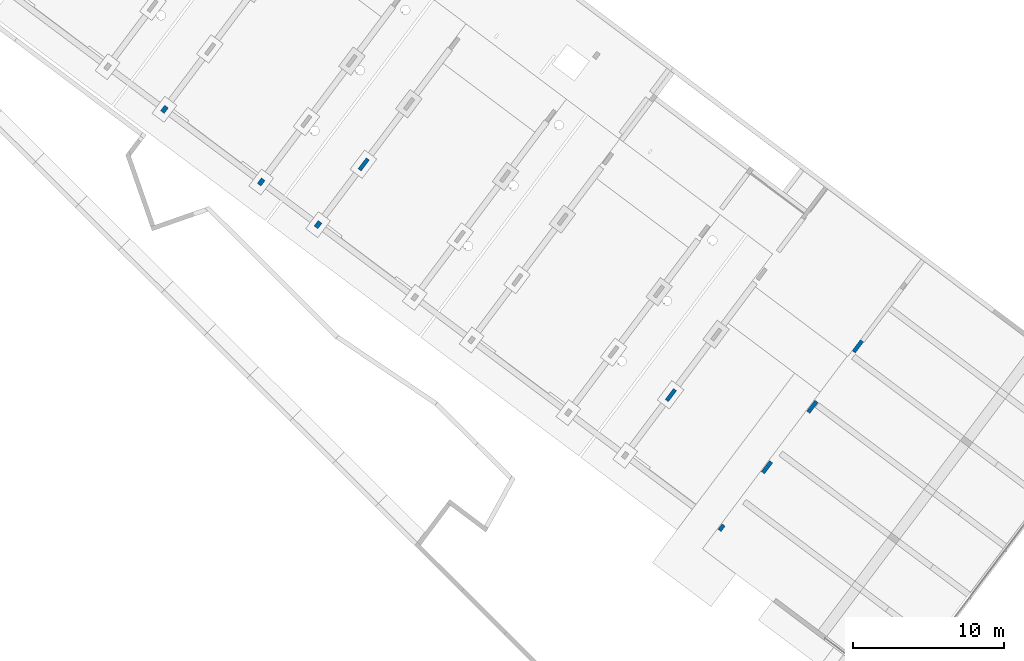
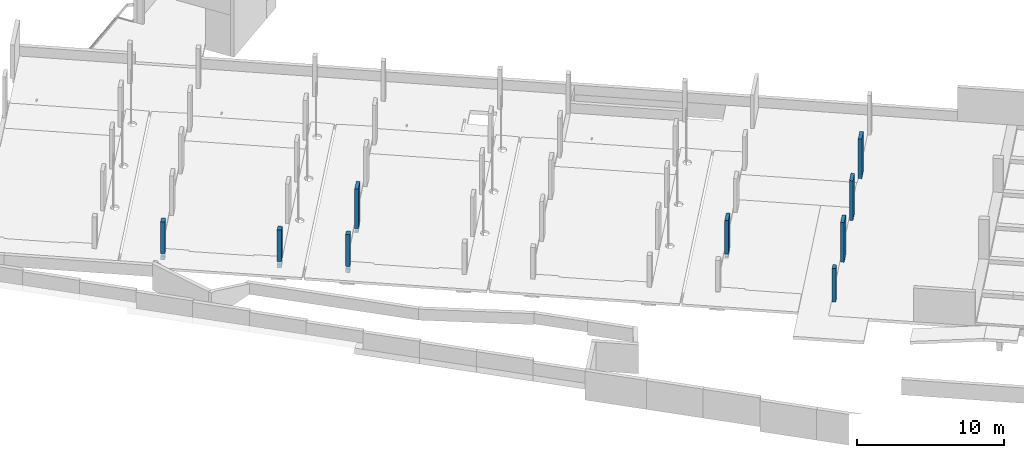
# One storey, part 3 of 24: 9 columns.
"""IFC2X3 building model written with IfcOpenShell, lengths in metres."""

from ifc_helpers import new_model, entity, si_unit, converted_unit, derived_unit, direction, frame, origin, origin_2d_with_axis, place, context, subcontext, project, spatial, rectangle, extrude, clip, halfspace, source, transform, mapped, material, type_object, type_shapes, element, save


model = new_model("IFC2X3")

# Units and contexts
model_context = context("Model", 3, precision=1e-05, world=origin(), true_north=direction((6.123031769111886e-17, 1.0)))
body_context = subcontext(model_context, "Body", "Model", "MODEL_VIEW")
ifc_project = project(units=[si_unit("LENGTHUNIT", "METRE"), si_unit("AREAUNIT", "SQUARE_METRE"), si_unit("VOLUMEUNIT", "CUBIC_METRE"), converted_unit("PLANEANGLEUNIT", "DEGREE", entity("IfcRatioMeasure", 0.017453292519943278), si_unit("PLANEANGLEUNIT", "RADIAN"), dimensions=[0, 0, 0, 0, 0, 0, 0]), si_unit("MASSUNIT", "GRAM", prefix="KILO"), derived_unit("MASSDENSITYUNIT", [(si_unit("MASSUNIT", "GRAM", prefix="KILO"), 1), (si_unit("LENGTHUNIT", "METRE"), -3)]), derived_unit("IONCONCENTRATIONUNIT", [(si_unit("MASSUNIT", "GRAM", prefix="KILO"), 1), (si_unit("LENGTHUNIT", "METRE"), -3)]), derived_unit("MOMENTOFINERTIAUNIT", [(si_unit("LENGTHUNIT", "METRE"), 4)]), si_unit("TIMEUNIT", "SECOND"), si_unit("FREQUENCYUNIT", "HERTZ"), si_unit("THERMODYNAMICTEMPERATUREUNIT", "DEGREE_CELSIUS"), derived_unit("THERMALTRANSMITTANCEUNIT", [(si_unit("MASSUNIT", "GRAM", prefix="KILO"), 1), (si_unit("THERMODYNAMICTEMPERATUREUNIT", "KELVIN"), -1), (si_unit("TIMEUNIT", "SECOND"), -3)]), derived_unit("THERMALCONDUCTANCEUNIT", [(si_unit("MASSUNIT", "GRAM", prefix="KILO"), 1), (si_unit("THERMODYNAMICTEMPERATUREUNIT", "KELVIN"), -1), (si_unit("TIMEUNIT", "SECOND"), -3), (si_unit("LENGTHUNIT", "METRE"), 1)]), derived_unit("VOLUMETRICFLOWRATEUNIT", [(si_unit("LENGTHUNIT", "METRE"), 3), (si_unit("TIMEUNIT", "SECOND"), -1)]), derived_unit("MASSFLOWRATEUNIT", [(si_unit("MASSUNIT", "GRAM", prefix="KILO"), 1), (si_unit("TIMEUNIT", "SECOND"), -1)]), derived_unit("ROTATIONALFREQUENCYUNIT", [(si_unit("TIMEUNIT", "SECOND"), -1)]), si_unit("ELECTRICCURRENTUNIT", "AMPERE"), si_unit("ELECTRICVOLTAGEUNIT", "VOLT"), si_unit("POWERUNIT", "WATT"), si_unit("FORCEUNIT", "NEWTON", prefix="KILO"), si_unit("ILLUMINANCEUNIT", "LUX"), si_unit("LUMINOUSFLUXUNIT", "LUMEN"), si_unit("LUMINOUSINTENSITYUNIT", "CANDELA"), derived_unit("USERDEFINED", [(si_unit("MASSUNIT", "GRAM", prefix="KILO"), -1), (si_unit("LENGTHUNIT", "METRE"), -2), (si_unit("TIMEUNIT", "SECOND"), 3), (si_unit("LUMINOUSFLUXUNIT", "LUMEN"), 1)]), derived_unit("USERDEFINED", [(si_unit("MASSUNIT", "GRAM", prefix="KILO"), 1), (si_unit("TIMEUNIT", "SECOND"), -3), (si_unit("LENGTHUNIT", "METRE"), 3), (si_unit("ELECTRICCURRENTUNIT", "AMPERE"), -2)]), derived_unit("SOUNDPOWERUNIT", [(si_unit("MASSUNIT", "GRAM", prefix="KILO"), 1), (si_unit("TIMEUNIT", "SECOND"), -3), (si_unit("LENGTHUNIT", "METRE"), 2)]), derived_unit("SOUNDPRESSUREUNIT", [(si_unit("MASSUNIT", "GRAM", prefix="KILO"), 1), (si_unit("LENGTHUNIT", "METRE"), -1), (si_unit("TIMEUNIT", "SECOND"), -2)]), derived_unit("LINEARVELOCITYUNIT", [(si_unit("LENGTHUNIT", "METRE"), 1), (si_unit("TIMEUNIT", "SECOND"), -1)]), si_unit("PRESSUREUNIT", "PASCAL"), derived_unit("USERDEFINED", [(si_unit("MASSUNIT", "GRAM", prefix="KILO"), 1), (si_unit("LENGTHUNIT", "METRE"), -2), (si_unit("TIMEUNIT", "SECOND"), -2)]), derived_unit("LINEARFORCEUNIT", [(si_unit("MASSUNIT", "GRAM", prefix="KILO"), 1), (si_unit("TIMEUNIT", "SECOND"), -2)]), derived_unit("PLANARFORCEUNIT", [(si_unit("MASSUNIT", "GRAM", prefix="KILO"), 1), (si_unit("LENGTHUNIT", "METRE"), -1), (si_unit("TIMEUNIT", "SECOND"), -2)]), derived_unit("SPECIFICHEATCAPACITYUNIT", [(si_unit("THERMODYNAMICTEMPERATUREUNIT", "KELVIN"), -1), (si_unit("LENGTHUNIT", "METRE"), 2), (si_unit("TIMEUNIT", "SECOND"), -2)]), derived_unit("HEATINGVALUEUNIT", [(si_unit("LENGTHUNIT", "METRE"), 2), (si_unit("TIMEUNIT", "SECOND"), -2)]), derived_unit("VAPORPERMEABILITYUNIT", [(si_unit("LENGTHUNIT", "METRE"), -1), (si_unit("TIMEUNIT", "SECOND"), 1)]), derived_unit("DYNAMICVISCOSITYUNIT", [(si_unit("MASSUNIT", "GRAM", prefix="KILO"), 1), (si_unit("TIMEUNIT", "SECOND"), -1), (si_unit("LENGTHUNIT", "METRE"), -1)]), derived_unit("THERMALEXPANSIONCOEFFICIENTUNIT", [(si_unit("THERMODYNAMICTEMPERATUREUNIT", "KELVIN"), -1)]), derived_unit("MODULUSOFELASTICITYUNIT", [(si_unit("MASSUNIT", "GRAM", prefix="KILO"), 1), (si_unit("LENGTHUNIT", "METRE"), -1), (si_unit("TIMEUNIT", "SECOND"), -2)]), derived_unit("ISOTHERMALMOISTURECAPACITYUNIT", [(si_unit("LENGTHUNIT", "METRE"), 3), (si_unit("MASSUNIT", "GRAM", prefix="KILO"), -1)]), derived_unit("MOISTUREDIFFUSIVITYUNIT", [(si_unit("TIMEUNIT", "SECOND"), -1), (si_unit("LENGTHUNIT", "METRE"), 2)])], contexts=[model_context])

# Site, building, storey
site_placement = place(None, origin())
site = spatial("IfcSite", under=ifc_project, at=site_placement, Name="Default", CompositionType="ELEMENT")
building_placement = place(site_placement, frame((0.0, 0.0, 235.0), z_axis=(0.0, 0.0, 1.0), x_axis=(-0.7996477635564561, 0.6004693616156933, 0.0)))
building = spatial("IfcBuilding", under=site, at=building_placement, CompositionType="ELEMENT")
storey_placement = place(building_placement, origin())
storey = spatial("IfcBuildingStorey", under=building, at=storey_placement, Name="P0- Escola", CompositionType="ELEMENT", Elevation=0.0)

# Columns
ifc_material = material(Name="_Formigó- T1- STR")
column_type_1 = type_object("IfcColumnType", Name="STR- P- Formigó- Rectangular- T1:25x45cm", PredefinedType="COLUMN", material=ifc_material)
shared_shape_1 = source(origin(), body_context, "Body", "SweptSolid", [
    extrude(rectangle(XDim=0.4500000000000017, YDim=0.24999999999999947, at=origin_2d_with_axis()), frame((15.820147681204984, -19.91519175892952, -0.2), z_axis=(0.0, 0.0, 1.0), x_axis=(0.0, -1.0, 0.0)), (0.0, 0.0, 1.0), 2.8000000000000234),
])
type_shapes(column_type_1, [shared_shape_1])
column_1_placement = place(storey_placement, origin())
element("IfcColumn", 1, at=column_1_placement, inside=storey, type_object=column_type_1, material=ifc_material, Name="STR- P- Formigó- Rectangular- T1:25x45cm", ObjectType="STR- P- Formigó- Rectangular- T1:25x45cm", context=body_context, shape_type="MappedRepresentation", body=[
    mapped(shared_shape_1, transform((0.0, 0.0, 0.0), scale=1.0)),
])
column_type_2 = type_object("IfcColumnType", Name="STR- P- Formigó- Rectangular- T1:30x45cm", PredefinedType="COLUMN", material=ifc_material)
shared_shape_2 = source(origin(), body_context, "Body", "SweptSolid", [
    clip(extrude(rectangle(XDim=0.450000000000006, YDim=0.3000000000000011, at=origin_2d_with_axis()), frame((49.19514768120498, -19.915191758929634, -0.57), z_axis=(0.0, 0.0, 1.0), x_axis=(0.0, -1.0, 0.0)), (0.0, 0.0, 1.0), 0.35000000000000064), halfspace(frame((45.457647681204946, -19.090191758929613, -0.245), z_axis=(0.0, 0.023802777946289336, 0.9997166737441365), x_axis=(0.6059345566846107, -0.7952891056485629, 0.0189354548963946)), False)),
    clip(extrude(rectangle(XDim=0.450000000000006, YDim=0.3000000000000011, at=origin_2d_with_axis()), frame((49.19514768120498, -19.915191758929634, -0.03071428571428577), z_axis=(0.0, 0.0, 1.0), x_axis=(0.0, -1.0, 0.0)), (0.0, 0.0, 1.0), 2.6307142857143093), halfspace(frame((45.457647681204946, -19.090191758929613, -0.045000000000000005), z_axis=(0.0, -0.023802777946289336, -0.9997166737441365), x_axis=(0.6059345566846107, -0.7952891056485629, 0.0189354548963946)), False)),
])
type_shapes(column_type_2, [shared_shape_2])
column_2_placement = place(storey_placement, origin())
element("IfcColumn", 2, at=column_2_placement, inside=storey, type_object=column_type_2, material=ifc_material, Name="STR- P- Formigó- Rectangular- T1:30x45cm", ObjectType="STR- P- Formigó- Rectangular- T1:30x45cm", context=body_context, shape_type="MappedRepresentation", body=[
    mapped(shared_shape_2, transform((0.0, 0.0, 0.0), scale=1.0)),
])
column_type_3 = type_object("IfcColumnType", Name="STR- P- Formigó- Rectangular- T1:30x45cm", PredefinedType="COLUMN", material=ifc_material)
shared_shape_3 = source(origin(), body_context, "Body", "SweptSolid", [
    clip(extrude(rectangle(XDim=0.450000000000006, YDim=0.3000000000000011, at=origin_2d_with_axis()), frame((53.89514768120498, -19.91519175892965, -0.57), z_axis=(0.0, 0.0, 1.0), x_axis=(0.0, -1.0, 0.0)), (0.0, 0.0, 1.0), 0.35000000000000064), halfspace(frame((58.157647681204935, -19.09019175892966, -0.245), z_axis=(0.0, 0.023802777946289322, 0.9997166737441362), x_axis=(-1.0, 0.0, 0.0)), False)),
    clip(extrude(rectangle(XDim=0.450000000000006, YDim=0.3000000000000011, at=origin_2d_with_axis()), frame((53.89514768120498, -19.91519175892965, -0.03071428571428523), z_axis=(0.0, 0.0, 1.0), x_axis=(0.0, -1.0, 0.0)), (0.0, 0.0, 1.0), 2.630714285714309), halfspace(frame((58.157647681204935, -19.09019175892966, -0.045), z_axis=(0.0, -0.023802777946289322, -0.9997166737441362), x_axis=(-1.0, 0.0, 0.0)), False)),
])
type_shapes(column_type_3, [shared_shape_3])
column_3_placement = place(storey_placement, origin())
element("IfcColumn", 3, at=column_3_placement, inside=storey, type_object=column_type_3, material=ifc_material, Name="STR- P- Formigó- Rectangular- T1:30x45cm", ObjectType="STR- P- Formigó- Rectangular- T1:30x45cm", context=body_context, shape_type="MappedRepresentation", body=[
    mapped(shared_shape_3, transform((0.0, 0.0, 0.0), scale=1.0)),
])
column_type_4 = type_object("IfcColumnType", Name="STR- P- Formigó- Rectangular- T1:30x45cm", PredefinedType="COLUMN", material=ifc_material)
shared_shape_4 = source(origin(), body_context, "Body", "SweptSolid", [
    clip(extrude(rectangle(XDim=0.450000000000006, YDim=0.3000000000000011, at=origin_2d_with_axis()), frame((61.89514768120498, -19.915191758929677, -0.57), z_axis=(0.0, 0.0, 1.0), x_axis=(0.0, -1.0, 0.0)), (0.0, 0.0, 1.0), 0.35000000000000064), halfspace(frame((58.157647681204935, -19.09019175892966, -0.245), z_axis=(0.0, 0.023802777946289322, 0.9997166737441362), x_axis=(-1.0, 0.0, 0.0)), False)),
    clip(extrude(rectangle(XDim=0.450000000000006, YDim=0.3000000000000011, at=origin_2d_with_axis()), frame((61.89514768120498, -19.915191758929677, -0.03071428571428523), z_axis=(0.0, 0.0, 1.0), x_axis=(0.0, -1.0, 0.0)), (0.0, 0.0, 1.0), 2.630714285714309), halfspace(frame((58.157647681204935, -19.09019175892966, -0.045), z_axis=(0.0, -0.023802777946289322, -0.9997166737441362), x_axis=(-1.0, 0.0, 0.0)), False)),
])
type_shapes(column_type_4, [shared_shape_4])
column_4_placement = place(storey_placement, origin())
element("IfcColumn", 4, at=column_4_placement, inside=storey, type_object=column_type_4, material=ifc_material, Name="STR- P- Formigó- Rectangular- T1:30x45cm", ObjectType="STR- P- Formigó- Rectangular- T1:30x45cm", context=body_context, shape_type="MappedRepresentation", body=[
    mapped(shared_shape_4, transform((0.0, 0.0, 0.0), scale=1.0)),
])
column_type_5 = type_object("IfcColumnType", Name="STR- P- Formigó- Rectangular- T1:25x90cm", PredefinedType="COLUMN", material=ifc_material)
shared_shape_5 = source(origin(), body_context, "Body", "SweptSolid", [
    extrude(rectangle(XDim=0.899999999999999, YDim=0.24999999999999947, at=origin_2d_with_axis()), frame((15.820147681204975, -24.91519175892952, -0.2), z_axis=(0.0, 0.0, 1.0), x_axis=(0.0, -1.0, 0.0)), (0.0, 0.0, 1.0), 3.3000000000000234),
])
type_shapes(column_type_5, [shared_shape_5])
column_5_placement = place(storey_placement, origin())
element("IfcColumn", 5, at=column_5_placement, inside=storey, type_object=column_type_5, material=ifc_material, Name="STR- P- Formigó- Rectangular- T1:25x90cm", ObjectType="STR- P- Formigó- Rectangular- T1:25x90cm", context=body_context, shape_type="MappedRepresentation", body=[
    mapped(shared_shape_5, transform((0.0, 0.0, 0.0), scale=1.0)),
])
column_type_6 = type_object("IfcColumnType", Name="STR- P- Formigó- Rectangular- T1:25x90cm", PredefinedType="COLUMN", material=ifc_material)
shared_shape_6 = source(origin(), body_context, "Body", "SweptSolid", [
    extrude(rectangle(XDim=0.899999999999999, YDim=0.2499999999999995, at=origin_2d_with_axis()), frame((23.770147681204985, -24.915191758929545, -0.57), z_axis=(0.0, 0.0, 1.0), x_axis=(0.0, -1.0, 0.0)), (0.0, 0.0, 1.0), 0.16999999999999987),
    extrude(rectangle(XDim=0.899999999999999, YDim=0.2499999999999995, at=origin_2d_with_axis()), frame((23.770147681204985, -24.915191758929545, -0.2), z_axis=(0.0, 0.0, 1.0), x_axis=(0.0, -1.0, 0.0)), (0.0, 0.0, 1.0), 2.8000000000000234),
])
type_shapes(column_type_6, [shared_shape_6])
column_6_placement = place(storey_placement, origin())
element("IfcColumn", 6, at=column_6_placement, inside=storey, type_object=column_type_6, material=ifc_material, Name="STR- P- Formigó- Rectangular- T1:25x90cm", ObjectType="STR- P- Formigó- Rectangular- T1:25x90cm", context=body_context, shape_type="MappedRepresentation", body=[
    mapped(shared_shape_6, transform((0.0, 0.0, 0.0), scale=1.0)),
])
column_type_7 = type_object("IfcColumnType", Name="STR- P- Formigó- Rectangular- T1:25x90cm", PredefinedType="COLUMN", material=ifc_material)
shared_shape_7 = source(origin(), body_context, "Body", "SweptSolid", [
    extrude(rectangle(XDim=0.899999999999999, YDim=0.25000000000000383, at=origin_2d_with_axis()), frame((49.170147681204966, -24.91519175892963, -0.57), z_axis=(0.0, 0.0, 1.0), x_axis=(0.0, -1.0, 0.0)), (0.0, 0.0, 1.0), 0.16999999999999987),
    extrude(rectangle(XDim=0.899999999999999, YDim=0.25000000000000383, at=origin_2d_with_axis()), frame((49.170147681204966, -24.91519175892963, -0.2), z_axis=(0.0, 0.0, 1.0), x_axis=(0.0, -1.0, 0.0)), (0.0, 0.0, 1.0), 3.3000000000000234),
])
type_shapes(column_type_7, [shared_shape_7])
column_7_placement = place(storey_placement, origin())
element("IfcColumn", 7, at=column_7_placement, inside=storey, type_object=column_type_7, material=ifc_material, Name="STR- P- Formigó- Rectangular- T1:25x90cm", ObjectType="STR- P- Formigó- Rectangular- T1:25x90cm", context=body_context, shape_type="MappedRepresentation", body=[
    mapped(shared_shape_7, transform((0.0, 0.0, 0.0), scale=1.0)),
])
column_type_8 = type_object("IfcColumnType", Name="STR- P- Formigó- Rectangular- T1:25x90cm", PredefinedType="COLUMN", material=ifc_material)
shared_shape_8 = source(origin(), body_context, "Body", "SweptSolid", [
    extrude(rectangle(XDim=0.899999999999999, YDim=0.24999999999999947, at=origin_2d_with_axis()), frame((15.820147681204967, -29.915191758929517, -0.2), z_axis=(0.0, 0.0, 1.0), x_axis=(0.0, -1.0, 0.0)), (0.0, 0.0, 1.0), 3.3000000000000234),
])
type_shapes(column_type_8, [shared_shape_8])
column_8_placement = place(storey_placement, origin())
element("IfcColumn", 8, at=column_8_placement, inside=storey, type_object=column_type_8, material=ifc_material, Name="STR- P- Formigó- Rectangular- T1:25x90cm", ObjectType="STR- P- Formigó- Rectangular- T1:25x90cm", context=body_context, shape_type="MappedRepresentation", body=[
    mapped(shared_shape_8, transform((0.0, 0.0, 0.0), scale=1.0)),
])
column_type_9 = type_object("IfcColumnType", Name="STR- P- Formigó- Rectangular- T1:25x90cm", PredefinedType="COLUMN", material=ifc_material)
shared_shape_9 = source(origin(), body_context, "Body", "SweptSolid", [
    extrude(rectangle(XDim=0.899999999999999, YDim=0.24999999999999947, at=origin_2d_with_axis()), frame((15.820147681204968, -34.91519175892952, -0.2), z_axis=(0.0, 0.0, 1.0), x_axis=(0.0, -1.0, 0.0)), (0.0, 0.0, 1.0), 3.3000000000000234),
])
type_shapes(column_type_9, [shared_shape_9])
column_9_placement = place(storey_placement, origin())
element("IfcColumn", 9, at=column_9_placement, inside=storey, type_object=column_type_9, material=ifc_material, Name="STR- P- Formigó- Rectangular- T1:25x90cm", ObjectType="STR- P- Formigó- Rectangular- T1:25x90cm", context=body_context, shape_type="MappedRepresentation", body=[
    mapped(shared_shape_9, transform((0.0, 0.0, 0.0), scale=1.0)),
])

save(model, "model.ifc")
